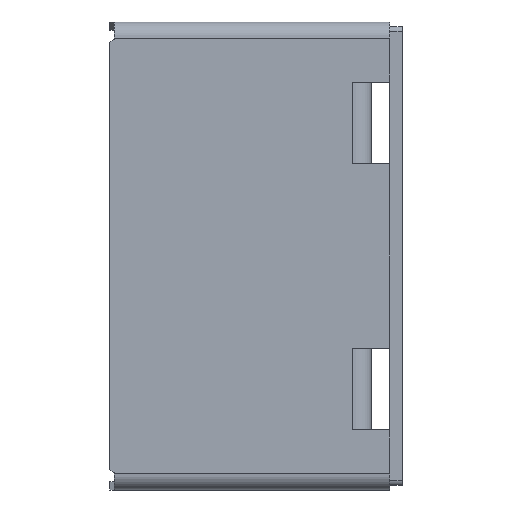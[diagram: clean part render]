
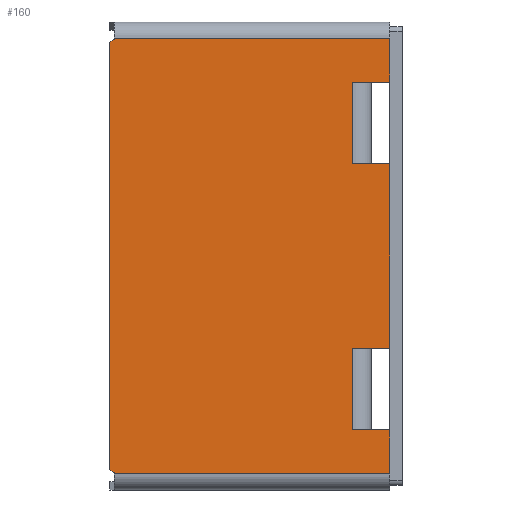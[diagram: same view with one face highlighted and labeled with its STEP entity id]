
A CAD part, left-side view. The second image highlights one B-rep face of the part: STEP entity #160.
In plain terms, the highlighted planar face has unit normal (-1, 0, 0).
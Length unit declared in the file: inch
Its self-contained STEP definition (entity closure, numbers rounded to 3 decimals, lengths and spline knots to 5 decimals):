
#30 = EDGE_CURVE ( 'NONE', #645, #2785, #335, .T. ) ;
#37 = LINE ( 'NONE', #2522, #2380 ) ;
#65 = DIRECTION ( 'NONE',  ( 0., 0., 1. ) ) ;
#104 = DIRECTION ( 'NONE',  ( 0., -1., 0. ) ) ;
#122 = DIRECTION ( 'NONE',  ( 0., -1., 0. ) ) ;
#128 = VECTOR ( 'NONE', #691, 39.37008 ) ;
#160 = ADVANCED_FACE ( 'NONE', ( #3585 ), #1370, .F. ) ;
#198 = VECTOR ( 'NONE', #3550, 39.37008 ) ;
#213 = VERTEX_POINT ( 'NONE', #2371 ) ;
#246 = EDGE_CURVE ( 'NONE', #3087, #3323, #3420, .T. ) ;
#271 = VERTEX_POINT ( 'NONE', #2628 ) ;
#280 = CARTESIAN_POINT ( 'NONE',  ( 0., 1.3325, 6.299 ) ) ;
#303 = CARTESIAN_POINT ( 'NONE',  ( 0., 1.3325, 42.701 ) ) ;
#326 = LINE ( 'NONE', #2195, #1016 ) ;
#335 = LINE ( 'NONE', #3992, #1204 ) ;
#380 = CARTESIAN_POINT ( 'NONE',  ( 0., 30.625, 2.16261 ) ) ;
#394 = CARTESIAN_POINT ( 'NONE',  ( 0., 23.19213, 52.90597 ) ) ;
#399 = VECTOR ( 'NONE', #122, 39.37008 ) ;
#407 = DIRECTION ( 'NONE',  ( 0., 0., -1. ) ) ;
#420 = DIRECTION ( 'NONE',  ( 0., 0., -1. ) ) ;
#490 = DIRECTION ( 'NONE',  ( 0., 0., -1. ) ) ;
#538 = ORIENTED_EDGE ( 'NONE', *, *, #246, .T. ) ;
#645 = VERTEX_POINT ( 'NONE', #1073 ) ;
#657 = LINE ( 'NONE', #2232, #3946 ) ;
#680 = CARTESIAN_POINT ( 'NONE',  ( 0., 0., 47.3071 ) ) ;
#691 = DIRECTION ( 'NONE',  ( 0., -0.775, 0.632 ) ) ;
#714 = CARTESIAN_POINT ( 'NONE',  ( 0., 1.3325, 24.5 ) ) ;
#749 = VECTOR ( 'NONE', #407, 39.37008 ) ;
#798 = CARTESIAN_POINT ( 'NONE',  ( 0., 1.3325, 14.8166 ) ) ;
#812 = VERTEX_POINT ( 'NONE', #3619 ) ;
#851 = LINE ( 'NONE', #394, #128 ) ;
#885 = ORIENTED_EDGE ( 'NONE', *, *, #1599, .F. ) ;
#940 = LINE ( 'NONE', #680, #3316 ) ;
#972 = LINE ( 'NONE', #1602, #3357 ) ;
#973 = DIRECTION ( 'NONE',  ( 0., -1., 0. ) ) ;
#992 = LINE ( 'NONE', #1645, #198 ) ;
#1009 = DIRECTION ( 'NONE',  ( 0., 0., -1. ) ) ;
#1016 = VECTOR ( 'NONE', #65, 39.37008 ) ;
#1073 = CARTESIAN_POINT ( 'NONE',  ( 0., 5.2105, 42.701 ) ) ;
#1129 = AXIS2_PLACEMENT_3D ( 'NONE', #3599, #1696, #3888 ) ;
#1139 = CARTESIAN_POINT ( 'NONE',  ( 0., 30.625, 46.83739 ) ) ;
#1162 = CARTESIAN_POINT ( 'NONE',  ( 0., 5.2105, 24.5 ) ) ;
#1174 = LINE ( 'NONE', #3059, #399 ) ;
#1204 = VECTOR ( 'NONE', #1476, 39.37008 ) ;
#1249 = ORIENTED_EDGE ( 'NONE', *, *, #2776, .F. ) ;
#1256 = DIRECTION ( 'NONE',  ( 0., 0., 1. ) ) ;
#1274 = EDGE_CURVE ( 'NONE', #271, #3449, #326, .T. ) ;
#1280 = EDGE_CURVE ( 'NONE', #3449, #812, #940, .T. ) ;
#1283 = EDGE_CURVE ( 'NONE', #3323, #2377, #2555, .T. ) ;
#1292 = ORIENTED_EDGE ( 'NONE', *, *, #1681, .F. ) ;
#1295 = ORIENTED_EDGE ( 'NONE', *, *, #1306, .T. ) ;
#1299 = EDGE_CURVE ( 'NONE', #3087, #271, #851, .T. ) ;
#1306 = EDGE_CURVE ( 'NONE', #1788, #812, #37, .T. ) ;
#1322 = EDGE_CURVE ( 'NONE', #2377, #3635, #1531, .T. ) ;
#1349 = EDGE_CURVE ( 'NONE', #3635, #2712, #657, .T. ) ;
#1356 = EDGE_CURVE ( 'NONE', #3913, #2712, #1429, .T. ) ;
#1370 = PLANE ( 'NONE',  #1129 ) ;
#1394 = ORIENTED_EDGE ( 'NONE', *, *, #1650, .T. ) ;
#1429 = LINE ( 'NONE', #714, #2172 ) ;
#1476 = DIRECTION ( 'NONE',  ( 0., 0., -1. ) ) ;
#1501 = EDGE_CURVE ( 'NONE', #3945, #213, #3235, .T. ) ;
#1503 = LINE ( 'NONE', #798, #2349 ) ;
#1531 = LINE ( 'NONE', #2218, #749 ) ;
#1595 = VERTEX_POINT ( 'NONE', #3516 ) ;
#1599 = EDGE_CURVE ( 'NONE', #3945, #3913, #1174, .T. ) ;
#1602 = CARTESIAN_POINT ( 'NONE',  ( 0., 1.3325, 24.5 ) ) ;
#1613 = CARTESIAN_POINT ( 'NONE',  ( 0., 5.2105, 34.1834 ) ) ;
#1624 = VECTOR ( 'NONE', #1890, 39.37008 ) ;
#1626 = CARTESIAN_POINT ( 'NONE',  ( 0., 3.2105, 42.701 ) ) ;
#1645 = CARTESIAN_POINT ( 'NONE',  ( 0., 1.3325, 34.1834 ) ) ;
#1650 = EDGE_CURVE ( 'NONE', #3720, #2785, #992, .T. ) ;
#1651 = VECTOR ( 'NONE', #3354, 39.37008 ) ;
#1655 = CARTESIAN_POINT ( 'NONE',  ( 0., 30.625, 24.5 ) ) ;
#1681 = EDGE_CURVE ( 'NONE', #1595, #213, #1503, .T. ) ;
#1683 = ORIENTED_EDGE ( 'NONE', *, *, #2746, .T. ) ;
#1696 = DIRECTION ( 'NONE',  ( 1., 0., 0. ) ) ;
#1712 = ORIENTED_EDGE ( 'NONE', *, *, #1501, .T. ) ;
#1734 = VECTOR ( 'NONE', #490, 39.37008 ) ;
#1781 = ORIENTED_EDGE ( 'NONE', *, *, #1356, .F. ) ;
#1788 = VERTEX_POINT ( 'NONE', #303 ) ;
#1886 = ORIENTED_EDGE ( 'NONE', *, *, #1280, .F. ) ;
#1890 = DIRECTION ( 'NONE',  ( 0., -0.775, -0.632 ) ) ;
#1948 = DIRECTION ( 'NONE',  ( 0., -1., 0. ) ) ;
#1985 = ORIENTED_EDGE ( 'NONE', *, *, #30, .F. ) ;
#2068 = LINE ( 'NONE', #1626, #2698 ) ;
#2172 = VECTOR ( 'NONE', #1009, 39.37008 ) ;
#2195 = CARTESIAN_POINT ( 'NONE',  ( 0., 30.1329, 24.5 ) ) ;
#2218 = CARTESIAN_POINT ( 'NONE',  ( 0., 30.1329, 24.5 ) ) ;
#2232 = CARTESIAN_POINT ( 'NONE',  ( 0., 0., 1.6929 ) ) ;
#2303 = CARTESIAN_POINT ( 'NONE',  ( 0., 30.1329, 47.3071 ) ) ;
#2349 = VECTOR ( 'NONE', #2929, 39.37008 ) ;
#2371 = CARTESIAN_POINT ( 'NONE',  ( 0., 5.2105, 14.8166 ) ) ;
#2377 = VERTEX_POINT ( 'NONE', #2834 ) ;
#2380 = VECTOR ( 'NONE', #1256, 39.37008 ) ;
#2419 = CARTESIAN_POINT ( 'NONE',  ( 0., 5.2105, 6.299 ) ) ;
#2522 = CARTESIAN_POINT ( 'NONE',  ( 0., 1.3325, 24.5 ) ) ;
#2555 = LINE ( 'NONE', #2813, #1624 ) ;
#2628 = CARTESIAN_POINT ( 'NONE',  ( 0., 30.1329, 47.23916 ) ) ;
#2698 = VECTOR ( 'NONE', #1948, 39.37008 ) ;
#2712 = VERTEX_POINT ( 'NONE', #3830 ) ;
#2730 = CARTESIAN_POINT ( 'NONE',  ( 0., 30.1329, 1.6929 ) ) ;
#2746 = EDGE_CURVE ( 'NONE', #645, #1788, #2068, .T. ) ;
#2776 = EDGE_CURVE ( 'NONE', #3720, #1595, #972, .T. ) ;
#2785 = VERTEX_POINT ( 'NONE', #1613 ) ;
#2813 = CARTESIAN_POINT ( 'NONE',  ( 0., 23.19213, -3.90597 ) ) ;
#2834 = CARTESIAN_POINT ( 'NONE',  ( 0., 30.1329, 1.76084 ) ) ;
#2891 = ORIENTED_EDGE ( 'NONE', *, *, #1274, .F. ) ;
#2929 = DIRECTION ( 'NONE',  ( 0., 1., 0. ) ) ;
#2999 = CARTESIAN_POINT ( 'NONE',  ( 0., 1.3325, 34.1834 ) ) ;
#3016 = ORIENTED_EDGE ( 'NONE', *, *, #1299, .F. ) ;
#3059 = CARTESIAN_POINT ( 'NONE',  ( 0., 3.2105, 6.299 ) ) ;
#3087 = VERTEX_POINT ( 'NONE', #1139 ) ;
#3235 = LINE ( 'NONE', #1162, #1651 ) ;
#3316 = VECTOR ( 'NONE', #973, 39.37008 ) ;
#3323 = VERTEX_POINT ( 'NONE', #380 ) ;
#3352 = ORIENTED_EDGE ( 'NONE', *, *, #1283, .T. ) ;
#3354 = DIRECTION ( 'NONE',  ( 0., 0., 1. ) ) ;
#3357 = VECTOR ( 'NONE', #420, 39.37008 ) ;
#3420 = LINE ( 'NONE', #1655, #1734 ) ;
#3449 = VERTEX_POINT ( 'NONE', #2303 ) ;
#3516 = CARTESIAN_POINT ( 'NONE',  ( 0., 1.3325, 14.8166 ) ) ;
#3550 = DIRECTION ( 'NONE',  ( 0., 1., 0. ) ) ;
#3565 = ORIENTED_EDGE ( 'NONE', *, *, #1349, .T. ) ;
#3568 = EDGE_LOOP ( 'NONE', ( #885, #1712, #1292, #1249, #1394, #1985, #1683, #1295, #1886, #2891, #3016, #538, #3352, #3953, #3565, #1781 ) ) ;
#3585 = FACE_OUTER_BOUND ( 'NONE', #3568, .T. ) ;
#3599 = CARTESIAN_POINT ( 'NONE',  ( 0., 0., 24.5 ) ) ;
#3619 = CARTESIAN_POINT ( 'NONE',  ( 0., 1.3325, 47.3071 ) ) ;
#3635 = VERTEX_POINT ( 'NONE', #2730 ) ;
#3720 = VERTEX_POINT ( 'NONE', #2999 ) ;
#3830 = CARTESIAN_POINT ( 'NONE',  ( 0., 1.3325, 1.6929 ) ) ;
#3888 = DIRECTION ( 'NONE',  ( 0., 0., -1. ) ) ;
#3913 = VERTEX_POINT ( 'NONE', #280 ) ;
#3945 = VERTEX_POINT ( 'NONE', #2419 ) ;
#3946 = VECTOR ( 'NONE', #104, 39.37008 ) ;
#3953 = ORIENTED_EDGE ( 'NONE', *, *, #1322, .T. ) ;
#3992 = CARTESIAN_POINT ( 'NONE',  ( 0., 5.2105, 24.5 ) ) ;
